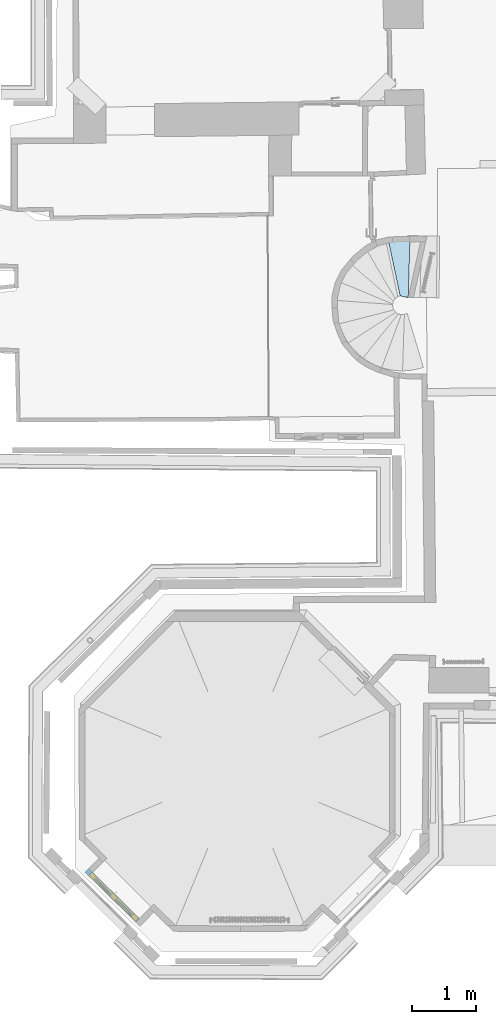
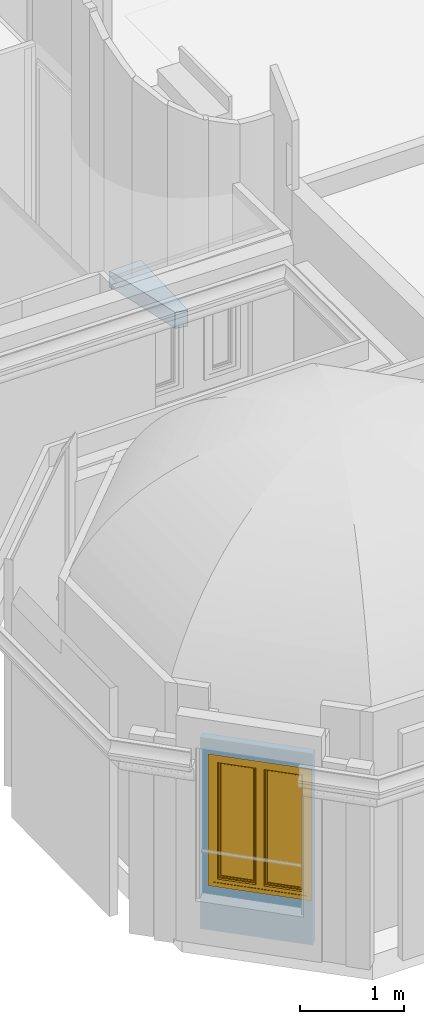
# One storey, part 39 of 72: 1 slab, 1 window, 1 opening, 1 element without a shape of its own, plus 1 element that does not belong to this part.
"""IFC2X3 building model written with IfcOpenShell, lengths in centimetres."""

from ifc_helpers import new_model, entity, si_unit, converted_unit, direction, frame, origin, origin_with_axes, place, context, subcontext, project, spatial, polyline, outline, extrude, faceted_brep, shape, source, transform, mapped, material, material_list, layer, layer_set, layer_usage, type_object, element, fill, aggregate, save


model = new_model("IFC2X3")

# Units and contexts
model_context = context("Model", 3, precision=0.0001, world=origin(), true_north=direction((0.225632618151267, 0.974212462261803, 0.0)))
body_context = subcontext(model_context, "Body", "Model", "MODEL_VIEW")
footprint_context = subcontext(model_context, "FootPrint", "Model", "MODEL_VIEW")
profile_context = subcontext(model_context, "Profile", "Model", "MODEL_VIEW")
ifc_project = project(units=[si_unit("LENGTHUNIT", "METRE", prefix="CENTI"), si_unit("AREAUNIT", "SQUARE_METRE", prefix="CENTI"), si_unit("VOLUMEUNIT", "CUBIC_METRE", prefix="CENTI"), converted_unit("PLANEANGLEUNIT", "DEGREE", entity("IfcRatioMeasure", 0.0174532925), si_unit("PLANEANGLEUNIT", "RADIAN"), dimensions=[0, 0, 0, 0, 0, 0, 0])], contexts=[model_context])

# Site, building, storey
site_placement = place(None, origin_with_axes())
site = spatial("IfcSite", under=ifc_project, at=site_placement, Name="Default Site", CompositionType="ELEMENT")
building_placement = place(site_placement, origin_with_axes())
building = spatial("IfcBuilding", under=site, at=building_placement, Name="Default Building", CompositionType="ELEMENT")
storey_placement = place(building_placement, frame((0.0, 0.0, 853.910374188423), z_axis=(0.0, 0.0, 1.0), x_axis=(1.0, 0.0, 0.0)))
storey = spatial("IfcBuildingStorey", under=building, at=storey_placement, Name="Niveau 2", CompositionType="ELEMENT", Elevation=853.910374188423)

# Stair, slab
stair_placement = place(storey_placement, frame((-682.187631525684, -165.522375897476, 3.08962581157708), z_axis=(0.0, 0.0, 1.0), x_axis=(1.0, 0.0, 0.0)))
stair = element("IfcStair", 1, at=stair_placement, inside=storey, Name="Escalier 184576", ShapeType="NOTDEFINED")
ifc_material_1 = material(Name="Blanc")
ifc_material_2 = material(Name="Brèche oniciata")
ifc_material_list_1 = material_list([ifc_material_1, ifc_material_2])
slab_placement = place(stair_placement, frame((-38.0785675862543, 156.407022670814, -4.00002670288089), z_axis=(0.0, 0.0, 1.0), x_axis=(-0.973920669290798, -0.226888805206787, 0.0)))
slab = element("IfcSlab", 2, at=slab_placement, material=ifc_material_list_1, Name="4294967256", PredefinedType="LANDING", context=body_context, shape_type="Brep", body=[
    faceted_brep([(0.0, 0.0, 0.0), (-34.5779653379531, 0.0, 0.0), (0.940760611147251, -6.90898287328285, 0.0), (1.74826981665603, 87.0821812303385, 0.0), (-9.93780633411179, 92.6785389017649, 0.0), (-34.5779653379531, 0.0, -14.9999618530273), (0.0, 0.0, -14.9999618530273), (0.940760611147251, -6.90898287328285, -14.9999618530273), (1.74826981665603, 87.0821812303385, -14.9999618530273), (-9.93780633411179, 92.6785389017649, -14.9999618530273), (-34.5779653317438, 3.19218796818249e-08, 0.0), (0.940760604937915, -6.90898290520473, -14.9999618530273), (0.940760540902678, -6.90898288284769, 0.0), (7.02445727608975e-08, 9.56484093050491e-09, -14.9999618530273), (-3.72596614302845e-07, 7.4802852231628e-09, 0.0), (1.74827018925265, 87.0821812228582, -14.9999618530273), (1.74826982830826, 87.0821812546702, 0.0), (-9.93780634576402, 92.6785388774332, -14.9999618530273), (-9.9378063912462, 92.6785389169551, 0.0), (-34.5779652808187, -1.5190152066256e-08, -14.9999618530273)], [[[0, 1, 2]], [[1, 0, 3]], [[1, 3, 4]], [[5, 6, 7]], [[6, 5, 8]], [[8, 5, 9]], [[7, 2, 10]], [[1, 5, 11]], [[6, 0, 12]], [[2, 7, 13]], [[8, 3, 14]], [[0, 6, 15]], [[9, 4, 16]], [[3, 8, 17]], [[5, 1, 18]], [[4, 9, 19]]]),
    faceted_brep([(0.0, 0.0, 3.99999618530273), (-34.5779653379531, 0.0, 3.99999618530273), (0.940760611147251, -6.90898287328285, 3.99999618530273), (1.74826981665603, 87.0821812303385, 3.99999618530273), (-9.93780633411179, 92.6785389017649, 3.99999618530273), (-34.5779653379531, 0.0, 0.0), (0.0, 0.0, 0.0), (0.940760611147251, -6.90898287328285, 0.0), (1.74826981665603, 87.0821812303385, 0.0), (-9.93780633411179, 92.6785389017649, 0.0), (-34.5779653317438, 3.19218796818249e-08, 3.99999618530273), (0.940760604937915, -6.90898290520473, 0.0), (0.940760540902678, -6.90898288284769, 3.99999618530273), (7.02445727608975e-08, 9.56484093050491e-09, 0.0), (-3.72596614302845e-07, 7.4802852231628e-09, 3.99999618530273), (1.74827018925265, 87.0821812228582, 0.0), (1.74826982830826, 87.0821812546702, 3.99999618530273), (-9.93780634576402, 92.6785388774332, 0.0), (-9.9378063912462, 92.6785389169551, 3.99999618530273), (-34.5779652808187, -1.5190152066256e-08, 0.0)], [[[0, 1, 2]], [[1, 0, 3]], [[1, 3, 4]], [[5, 6, 7]], [[6, 5, 8]], [[8, 5, 9]], [[7, 2, 10]], [[1, 5, 11]], [[6, 0, 12]], [[2, 7, 13]], [[8, 3, 14]], [[0, 6, 15]], [[9, 4, 16]], [[3, 8, 17]], [[5, 1, 18]], [[4, 9, 19]]]),
])
aggregate(stair, [slab])

# Wall, opening, window
ifc_material_3 = material(Name="<aucun>")
ifc_layer = layer(ifc_material_3, 8.0)
ifc_layer_set = layer_set([ifc_layer], Name="default")
ifc_layer_usage = layer_usage(ifc_layer_set, "AXIS2", "POSITIVE", -4.0)
wall_type = type_object("IfcWallType", Name="default 80", PredefinedType="NOTDEFINED", material=ifc_layer_set)
wall_placement = place(storey_placement, frame((-1110.47547042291, -1077.12006479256, 1.4210854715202e-12), z_axis=(0.0, 0.0, 1.0), x_axis=(-0.713509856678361, 0.700645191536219, 0.0)))
wall = element("IfcWallStandardCase", 3, at=wall_placement, inside=storey, type_object=wall_type, material=ifc_layer_usage, Name="Enveloppe 159305", context=body_context, shape_type="SweptSolid", body=[
    extrude(outline(polyline([(116.598534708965, 4.00000000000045), (4.4640913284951, 3.99999999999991), (4.53627502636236, -3.99999999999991), (116.546919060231, -3.99999999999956), (116.598534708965, 4.00000000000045)])), frame((0.0, 0.0, 1.77635683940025e-13), z_axis=(0.0, 0.0, 1.0), x_axis=(1.0, 0.0, 0.0)), (0.0, 0.0, 1.0), 224.999999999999),
])
opening_placement = place(wall_placement, frame((5.87434945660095, -2.27373675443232e-13, 51.9999999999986), z_axis=(0.0, 0.0, 1.0), x_axis=(-1.0, -2.88657986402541e-15, 0.0)))
cartesian_point_1 = entity("IfcCartesianPoint", [0.0, -3.5527136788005e-13, 155.0])
cartesian_point_2 = entity("IfcCartesianPoint", [-102.786452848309, -4.00000000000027])
opening = element("IfcOpeningElement", 4, at=opening_placement, cuts=wall, Name="4294966434_11", ObjectType="Opening", shapes=[
    shape(body_context, "Body", "SweptSolid", [extrude(outline(polyline([(0.0, 155.0), (0.0, -1.77635683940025e-13), (102.786452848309, -1.77635683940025e-13), (102.786452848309, 155.0), (0.0, 155.0)])), frame((0.0, -14.0, 0.0), z_axis=(0.0, 1.0, 0.0), x_axis=(-1.0, 0.0, 0.0)), (0.0, 0.0, 1.0), 28.0)]),
    shape(profile_context, "Profile", "GeometricCurveSet", [entity("IfcGeometricCurveSet", [entity("IfcPolyline", [cartesian_point_1, entity("IfcCartesianPoint", [0.0, -3.5527136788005e-13, -1.77635683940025e-13]), entity("IfcCartesianPoint", [-102.786452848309, -3.5527136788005e-13, -1.77635683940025e-13]), entity("IfcCartesianPoint", [-102.786452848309, -3.5527136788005e-13, 155.0]), cartesian_point_1])])]),
    shape(footprint_context, "FootPrint", "GeometricCurveSet", [entity("IfcGeometricCurveSet", [entity("IfcPolyline", [cartesian_point_2, entity("IfcCartesianPoint", [0.0, -4.00000000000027]), entity("IfcCartesianPoint", [0.0, 3.99999999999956]), entity("IfcCartesianPoint", [-102.786452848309, 3.99999999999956]), cartesian_point_2])])]),
])
ifc_material_4 = material(Name="Transparent")
ifc_material_5 = material(Name="Bleu france")
ifc_material_6 = material(Name="Aluminium satiné")
ifc_material_list_2 = material_list([ifc_material_4, ifc_material_5, ifc_material_6])
window_style = type_object("IfcWindowStyle", Name="FN[R] 2VB[1V] MM", ConstructionType="NOTDEFINED", OperationType="DOUBLE_PANEL_VERTICAL", ParameterTakesPrecedence=True, Sizeable=False, material=ifc_material_list_2)
shared_shape = source(origin_with_axes(), body_context, "Body", "Brep", [
    faceted_brep([(-46.3932275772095, 150.0, -3.99999991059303), (-46.3932275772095, 150.0, 3.99999991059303), (-46.3932275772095, 5.00000007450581, 3.99999991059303), (-46.3932275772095, 5.00000007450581, -3.99999991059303), (-51.3932287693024, 154.999995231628, 3.99999991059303), (-51.3932287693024, -1.11022302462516e-14, 3.99999991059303), (-51.3932287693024, 154.999995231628, -3.99999991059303), (-51.3932287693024, -1.11022302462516e-14, -3.99999991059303), (46.3932275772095, 5.0000000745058, 3.99999991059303), (46.3932275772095, 5.0000000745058, -3.99999991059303), (51.3932287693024, -1.11022302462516e-14, 3.99999991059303), (46.3932275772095, 5.00000007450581, 3.99999991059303), (51.3932287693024, -1.11022302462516e-14, -3.99999991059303), (46.3932275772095, 5.00000007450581, -3.99999991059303), (46.3932275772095, 150.0, 3.99999991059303), (46.3932275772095, 150.0, -3.99999991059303), (51.3932287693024, 154.999995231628, 3.99999991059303), (51.3932287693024, 154.999995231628, -3.99999991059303)], [[[0, 1, 2, 3]], [[1, 4, 5, 2]], [[4, 6, 7, 5]], [[6, 0, 3, 7]], [[3, 2, 8, 9]], [[2, 5, 10, 11]], [[5, 7, 12, 10]], [[7, 3, 13, 12]], [[13, 11, 14, 15]], [[11, 10, 16, 14]], [[10, 12, 17, 16]], [[12, 13, 15, 17]], [[15, 14, 1, 0]], [[14, 16, 4, 1]], [[16, 17, 6, 4]], [[17, 15, 0, 6]]]),
    faceted_brep([(-42.3932254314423, 146.000003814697, -3.50000001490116), (-41.3932259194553, 145.000004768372, -2.50000050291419), (-41.3932259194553, 10.0000001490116, -2.50000050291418), (-42.3932254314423, 9.00000035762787, -3.50000001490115), (-41.3932263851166, 145.000004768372, -2.5000000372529), (-41.3932263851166, 145.000004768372, 3.50000001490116), (-41.3932263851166, 10.0000001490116, 3.50000001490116), (-41.3932263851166, 10.0000001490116, -2.5000000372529), (-46.3932275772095, 150.0, 3.50000001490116), (-46.3932275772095, 5.00000007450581, 3.50000001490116), (-46.3932275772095, 150.0, -3.50000001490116), (-46.3932275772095, 5.00000007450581, -3.50000001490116), (-42.3932254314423, 9.00000035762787, -3.50000001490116), (-41.3932263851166, 10.0000002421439, -2.50000013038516), (-5.00000007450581, 10.0000002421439, -2.50000013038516), (-3.99999991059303, 9.00000035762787, -3.50000001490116), (-5.00000007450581, 10.0000001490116, 3.50000001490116), (-5.00000007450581, 10.0000001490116, -2.5000000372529), (-4.44089209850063e-14, 5.00000007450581, 3.50000001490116), (-4.44089209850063e-14, 5.00000007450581, -3.50000001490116), (-4.99999998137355, 10.0000001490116, -2.49999994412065), (-4.99999998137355, 145.000004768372, -2.49999994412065), (-3.99999991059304, 146.000003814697, -3.50000001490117), (-5.00000007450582, 145.000004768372, 3.50000001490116), (-5.00000007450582, 145.000004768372, -2.5000000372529), (-3.33066907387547e-14, 150.0, 3.50000001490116), (-5.00000007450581, 145.000004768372, 3.50000001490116), (-3.33066905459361e-14, 150.0, -3.50000001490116), (-3.33066905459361e-14, 150.0, 3.50000001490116), (-3.99999991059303, 146.000003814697, -3.50000001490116), (-3.33066907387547e-14, 150.0, -3.50000001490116), (-5.00000007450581, 145.00000430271, -2.50000050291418), (-41.3932263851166, 145.00000430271, -2.50000050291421), (-42.3932254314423, 146.000003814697, -3.50000001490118), (-5.00000007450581, 145.000004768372, -2.5000000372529)], [[[0, 1, 2, 3]], [[4, 5, 6, 7]], [[5, 8, 9, 6]], [[8, 10, 11, 9]], [[10, 0, 12, 11]], [[12, 13, 14, 15]], [[7, 6, 16, 17]], [[6, 9, 18, 16]], [[9, 11, 19, 18]], [[11, 12, 15, 19]], [[15, 20, 21, 22]], [[17, 16, 23, 24]], [[16, 18, 25, 26]], [[18, 19, 27, 28]], [[19, 15, 29, 30]], [[29, 31, 32, 33]], [[34, 26, 5, 4]], [[26, 25, 8, 5]], [[25, 30, 10, 8]], [[30, 29, 0, 10]]]),
    faceted_brep([(-39.8932278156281, 143.499994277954, -0.999999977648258), (-39.3932265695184, 142.999994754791, -0.499998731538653), (-39.3932265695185, 11.9999997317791, -0.499998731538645), (-39.8932278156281, 11.5000002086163, -0.99999997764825), (-39.393225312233, 142.999994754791, -0.499999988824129), (-39.393225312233, 142.999994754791, 0.499999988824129), (-39.393225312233, 11.9999997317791, 0.499999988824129), (-39.393225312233, 11.9999997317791, -0.499999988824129), (-39.8932265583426, 143.499994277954, 1.00000123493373), (-39.8932265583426, 11.5000002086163, 1.00000123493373), (-39.393225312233, 11.9999997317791, 0.499999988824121), (-39.8932278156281, 143.499994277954, 0.999999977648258), (-41.3932263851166, 145.000004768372, 0.999999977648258), (-41.3932263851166, 10.0000001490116, 0.999999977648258), (-39.8932278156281, 11.5000002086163, 0.999999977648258), (-41.3932263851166, 145.000004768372, -0.999999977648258), (-41.3932263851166, 10.0000001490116, -0.999999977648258), (-39.8932278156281, 11.5000002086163, -0.999999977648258), (-39.393225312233, 11.9999999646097, -0.500000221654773), (-7.00000002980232, 11.9999999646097, -0.500000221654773), (-6.49999976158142, 11.5000002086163, -0.999999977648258), (-7.00000002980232, 11.9999997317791, 0.499999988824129), (-7.00000002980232, 11.9999997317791, -0.499999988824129), (-39.8932278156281, 11.4999999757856, 0.999999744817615), (-6.49999976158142, 11.4999999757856, 0.999999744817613), (-7.00000002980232, 11.9999997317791, 0.499999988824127), (-5.00000007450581, 10.0000001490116, 0.999999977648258), (-6.49999976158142, 11.5000002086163, 0.999999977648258), (-5.00000007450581, 10.0000001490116, -0.999999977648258), (-6.99999989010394, 11.9999997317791, -0.499999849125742), (-6.99999989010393, 142.999994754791, -0.49999984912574), (-6.49999976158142, 143.499994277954, -0.999999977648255), (-7.00000002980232, 142.999994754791, 0.499999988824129), (-7.00000002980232, 142.999994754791, -0.499999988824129), (-6.49999990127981, 11.5000002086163, 1.00000011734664), (-6.4999999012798, 143.499994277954, 1.00000011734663), (-7.00000002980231, 142.999994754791, 0.499999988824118), (-5.00000007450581, 145.000004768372, 0.999999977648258), (-6.49999976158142, 143.499994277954, 0.999999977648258), (-5.0000000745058, 145.000004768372, -0.999999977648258), (-5.0000000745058, 145.000004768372, 0.999999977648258), (-6.49999976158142, 143.499994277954, -0.999999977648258), (-5.00000007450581, 145.000004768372, -0.999999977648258), (-7.00000002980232, 142.999994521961, -0.500000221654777), (-39.393225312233, 142.999994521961, -0.500000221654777), (-6.49999976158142, 143.499994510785, 0.999999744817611), (-39.8932278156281, 143.499994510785, 0.999999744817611)], [[[0, 1, 2, 3]], [[4, 5, 6, 7]], [[5, 8, 9, 10]], [[11, 12, 13, 14]], [[12, 15, 16, 13]], [[15, 0, 17, 16]], [[17, 18, 19, 20]], [[7, 6, 21, 22]], [[6, 23, 24, 25]], [[14, 13, 26, 27]], [[13, 16, 28, 26]], [[16, 17, 20, 28]], [[20, 29, 30, 31]], [[22, 21, 32, 33]], [[21, 34, 35, 36]], [[27, 26, 37, 38]], [[26, 28, 39, 40]], [[28, 20, 41, 42]], [[41, 43, 44, 0]], [[33, 32, 5, 4]], [[32, 45, 46, 5]], [[38, 37, 12, 11]], [[37, 42, 15, 12]], [[42, 41, 0, 15]]]),
    faceted_brep([(-7.00000002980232, 142.999994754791, -0.499999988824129), (-7.00000002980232, 11.9999997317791, -0.499999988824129), (-39.393225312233, 11.9999997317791, -0.499999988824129), (-39.393225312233, 142.999994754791, -0.499999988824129), (-39.393225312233, 142.999994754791, 0.499999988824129), (-39.393225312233, 11.9999997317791, 0.499999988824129), (-7.00000002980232, 11.9999997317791, 0.499999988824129), (-7.00000002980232, 142.999994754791, 0.499999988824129), (-7.00000002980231, 142.999994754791, -0.499999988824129), (-7.00000002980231, 142.999994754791, 0.499999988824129)], [[[0, 1, 2, 3]], [[4, 5, 6, 7]], [[3, 2, 5, 4]], [[2, 1, 6, 5]], [[1, 8, 9, 6]], [[0, 3, 4, 7]]]),
    faceted_brep([(3.99999991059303, 146.000003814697, -3.50000001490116), (4.99999998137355, 145.000004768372, -2.49999994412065), (4.99999998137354, 10.0000001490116, -2.49999994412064), (3.99999991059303, 9.00000035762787, -3.50000001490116), (5.00000007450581, 145.000004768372, -2.5000000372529), (5.00000007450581, 145.000004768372, 3.50000001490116), (5.0000000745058, 10.0000001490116, 3.50000001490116), (5.0000000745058, 10.0000001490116, -2.5000000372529), (-3.33066907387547e-14, 150.0, 3.50000001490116), (-4.44089209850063e-14, 5.00000007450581, 3.50000001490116), (5.00000007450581, 10.0000001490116, 3.50000001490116), (-3.33066907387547e-14, 150.0, -3.50000001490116), (-4.44089211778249e-14, 5.00000007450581, -3.50000001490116), (-4.44089211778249e-14, 5.00000007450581, 3.50000001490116), (-4.44089209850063e-14, 5.00000007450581, -3.50000001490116), (5.00000007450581, 10.0000002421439, -2.50000013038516), (41.3932263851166, 10.0000002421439, -2.50000013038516), (42.3932254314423, 9.00000035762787, -3.50000001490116), (5.00000007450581, 10.0000001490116, -2.5000000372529), (41.3932263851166, 10.0000001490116, 3.50000001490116), (41.3932263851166, 10.0000001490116, -2.5000000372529), (46.3932275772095, 5.00000007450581, 3.50000001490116), (46.3932275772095, 5.00000007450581, -3.50000001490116), (41.3932259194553, 10.0000001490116, -2.50000050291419), (41.3932259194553, 145.000004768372, -2.5000005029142), (42.3932254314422, 146.000003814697, -3.50000001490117), (41.3932263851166, 145.000004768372, 3.50000001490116), (41.3932263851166, 145.000004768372, -2.5000000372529), (46.3932275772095, 150.0, 3.50000001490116), (46.3932275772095, 150.0, -3.50000001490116), (42.3932254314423, 146.000003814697, -3.50000001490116), (41.3932263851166, 145.00000430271, -2.5000005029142), (5.00000007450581, 145.00000430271, -2.5000005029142), (3.99999991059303, 146.000003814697, -3.50000001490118)], [[[0, 1, 2, 3]], [[4, 5, 6, 7]], [[5, 8, 9, 10]], [[8, 11, 12, 13]], [[11, 0, 3, 14]], [[3, 15, 16, 17]], [[18, 10, 19, 20]], [[10, 9, 21, 19]], [[9, 14, 22, 21]], [[14, 3, 17, 22]], [[17, 23, 24, 25]], [[20, 19, 26, 27]], [[19, 21, 28, 26]], [[21, 22, 29, 28]], [[22, 17, 30, 29]], [[30, 31, 32, 33]], [[27, 26, 5, 4]], [[26, 28, 8, 5]], [[28, 29, 11, 8]], [[29, 30, 0, 11]]]),
    faceted_brep([(4.50000017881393, 79.5000016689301, 3.50000001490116), (4.50000017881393, 75.4999995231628, 3.50000001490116), (0.499999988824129, 75.4999995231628, 3.50000001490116), (0.499999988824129, 79.5000016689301, 3.50000001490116), (0.499999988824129, 79.5000016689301, 4.30000014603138), (0.499999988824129, 75.4999995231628, 4.30000014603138), (4.50000017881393, 75.4999995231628, 4.30000014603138), (4.50000017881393, 79.5000016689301, 4.30000014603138)], [[[0, 1, 2, 3]], [[4, 5, 6, 7]], [[3, 2, 5, 4]], [[2, 1, 6, 5]], [[1, 0, 7, 6]], [[0, 3, 4, 7]]]),
    faceted_brep([(3.24999988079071, 77.9999971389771, 4.30000014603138), (3.24999988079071, 76.9999980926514, 4.30000014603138), (1.75000000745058, 76.9999980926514, 4.30000014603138), (1.75000000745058, 77.9999971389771, 4.30000014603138), (1.75000000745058, 77.9999971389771, 8.29999968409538), (1.75000000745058, 76.9999977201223, 7.30000026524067), (3.24999988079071, 76.9999977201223, 7.30000026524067), (3.24999988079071, 77.9999971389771, 8.29999968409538), (1.75000000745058, 76.9999980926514, 7.29999989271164), (3.24999988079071, 76.9999980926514, 7.29999989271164)], [[[0, 1, 2, 3]], [[4, 5, 6, 7]], [[3, 2, 8, 4]], [[2, 1, 9, 8]], [[1, 0, 7, 9]], [[0, 3, 4, 7]]]),
    faceted_brep([(3.24999988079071, 77.9999971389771, 8.29999968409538), (3.24999988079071, 76.9999977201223, 7.30000026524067), (1.75000000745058, 76.9999977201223, 7.30000026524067), (1.75000000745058, 77.9999971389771, 8.29999968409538), (1.75000000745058, 64.9999976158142, 8.29999968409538), (1.75000000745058, 64.9999976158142, 7.29999989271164), (3.24999988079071, 64.9999976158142, 7.29999989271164), (3.24999988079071, 64.9999976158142, 8.29999968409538), (1.75000000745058, 76.9999980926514, 7.29999989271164), (3.24999988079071, 76.9999980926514, 7.29999989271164)], [[[0, 1, 2, 3]], [[4, 5, 6, 7]], [[3, 8, 5, 4]], [[8, 9, 6, 5]], [[9, 0, 7, 6]], [[0, 3, 4, 7]]]),
    faceted_brep([(6.49999976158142, 143.499994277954, -0.999999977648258), (6.99999989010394, 142.999994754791, -0.499999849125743), (6.99999989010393, 11.9999997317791, -0.499999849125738), (6.49999976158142, 11.5000002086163, -0.999999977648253), (7.00000002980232, 142.999994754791, -0.499999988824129), (7.00000002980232, 142.999994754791, 0.499999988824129), (7.00000002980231, 11.9999997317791, 0.499999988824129), (7.00000002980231, 11.9999997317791, -0.499999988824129), (6.49999990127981, 143.499994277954, 1.00000011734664), (6.4999999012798, 11.5000002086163, 1.00000011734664), (7.00000002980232, 11.9999997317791, 0.499999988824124), (6.49999976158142, 143.499994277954, 0.999999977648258), (5.00000007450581, 145.000004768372, 0.999999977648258), (5.00000007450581, 10.0000001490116, 0.999999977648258), (6.49999976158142, 11.5000002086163, 0.999999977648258), (5.00000007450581, 145.000004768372, -0.999999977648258), (5.0000000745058, 10.0000001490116, -0.999999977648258), (5.0000000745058, 10.0000001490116, 0.999999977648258), (6.49999976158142, 11.5000002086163, -0.999999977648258), (5.00000007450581, 10.0000001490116, -0.999999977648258), (7.00000002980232, 11.9999999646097, -0.500000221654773), (39.393225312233, 11.9999999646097, -0.500000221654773), (39.8932278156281, 11.5000002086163, -0.999999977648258), (7.00000002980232, 11.9999997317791, -0.499999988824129), (7.00000002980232, 11.9999997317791, 0.499999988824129), (39.393225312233, 11.9999997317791, 0.499999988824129), (39.393225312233, 11.9999997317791, -0.499999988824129), (6.49999976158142, 11.4999999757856, 0.999999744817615), (39.8932278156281, 11.4999999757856, 0.999999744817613), (39.393225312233, 11.9999997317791, 0.499999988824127), (41.3932263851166, 10.0000001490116, 0.999999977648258), (39.8932278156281, 11.5000002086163, 0.999999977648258), (41.3932263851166, 10.0000001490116, -0.999999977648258), (39.3932265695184, 11.9999997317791, -0.499998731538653), (39.3932265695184, 142.999994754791, -0.499998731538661), (39.893227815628, 143.499994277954, -0.999999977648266), (39.393225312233, 142.999994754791, 0.499999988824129), (39.393225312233, 142.999994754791, -0.499999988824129), (39.8932265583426, 11.5000002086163, 1.00000123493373), (39.8932265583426, 143.499994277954, 1.00000123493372), (39.393225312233, 142.999994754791, 0.499999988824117), (41.3932263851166, 145.000004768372, 0.999999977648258), (39.8932278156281, 143.499994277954, 0.999999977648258), (41.3932263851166, 145.000004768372, -0.999999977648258), (39.8932278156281, 143.499994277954, -0.999999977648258), (39.393225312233, 142.999994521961, -0.500000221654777), (7.00000002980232, 142.999994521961, -0.500000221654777), (39.8932278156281, 143.499994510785, 0.999999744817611), (6.49999976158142, 143.499994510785, 0.999999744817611)], [[[0, 1, 2, 3]], [[4, 5, 6, 7]], [[5, 8, 9, 10]], [[11, 12, 13, 14]], [[12, 15, 16, 17]], [[15, 0, 18, 19]], [[18, 20, 21, 22]], [[23, 24, 25, 26]], [[24, 27, 28, 29]], [[14, 13, 30, 31]], [[13, 19, 32, 30]], [[19, 18, 22, 32]], [[22, 33, 34, 35]], [[26, 25, 36, 37]], [[25, 38, 39, 40]], [[31, 30, 41, 42]], [[30, 32, 43, 41]], [[32, 22, 44, 43]], [[44, 45, 46, 0]], [[37, 36, 5, 4]], [[36, 47, 48, 5]], [[42, 41, 12, 11]], [[41, 43, 15, 12]], [[43, 44, 0, 15]]]),
    faceted_brep([(39.393225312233, 142.999994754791, -0.499999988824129), (39.393225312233, 11.9999997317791, -0.499999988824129), (7.00000002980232, 11.9999997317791, -0.499999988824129), (7.00000002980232, 142.999994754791, -0.499999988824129), (7.00000002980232, 142.999994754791, 0.499999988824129), (7.00000002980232, 11.9999997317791, 0.499999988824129), (39.393225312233, 11.9999997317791, 0.499999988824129), (39.393225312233, 142.999994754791, 0.499999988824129), (7.00000002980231, 11.9999997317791, -0.499999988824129), (7.00000002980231, 11.9999997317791, 0.499999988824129)], [[[0, 1, 2, 3]], [[4, 5, 6, 7]], [[3, 8, 9, 4]], [[2, 1, 6, 5]], [[1, 0, 7, 6]], [[0, 3, 4, 7]]]),
])
window_placement = place(opening_placement, frame((-102.786452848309, -4.0, 0.0), z_axis=(0.0, 0.0, 1.0), x_axis=(1.0, 0.0, 0.0)))
window = element("IfcWindow", 5, at=window_placement, inside=storey, type_object=window_style, material=ifc_material_list_2, Name="Fenêtre 159512", OverallHeight=155.0, OverallWidth=102.786452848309, context=body_context, shape_type="MappedRepresentation", body=[
    mapped(shared_shape, transform((51.3932264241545, 3.99999999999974, 0.0), x_axis=(-1.0, 0.0, 0.0), y_axis=(0.0, 0.0, 1.0), z_axis=(0.0, 1.0, 0.0), scale=1.0, scale2=1.0, scale3=1.0, uniform=False)),
])
fill(opening, window)

save(model, "model.ifc")
